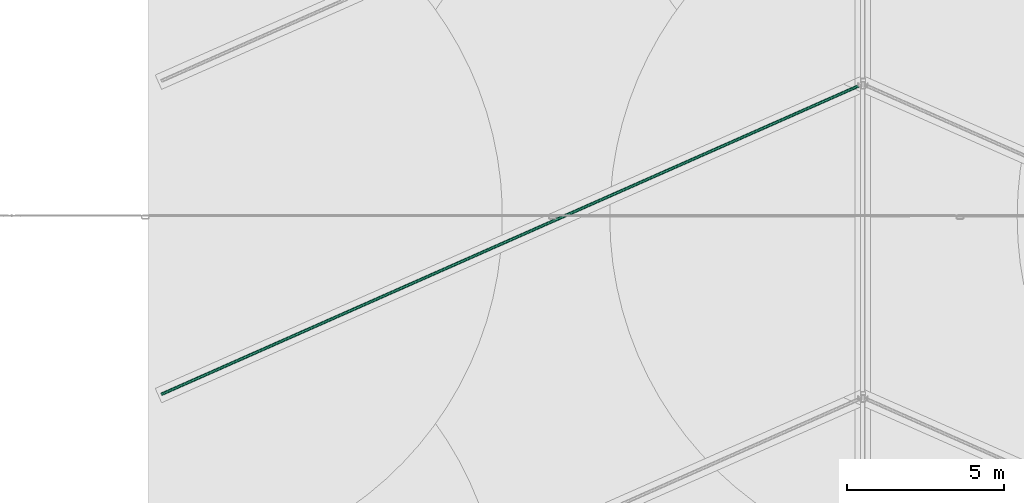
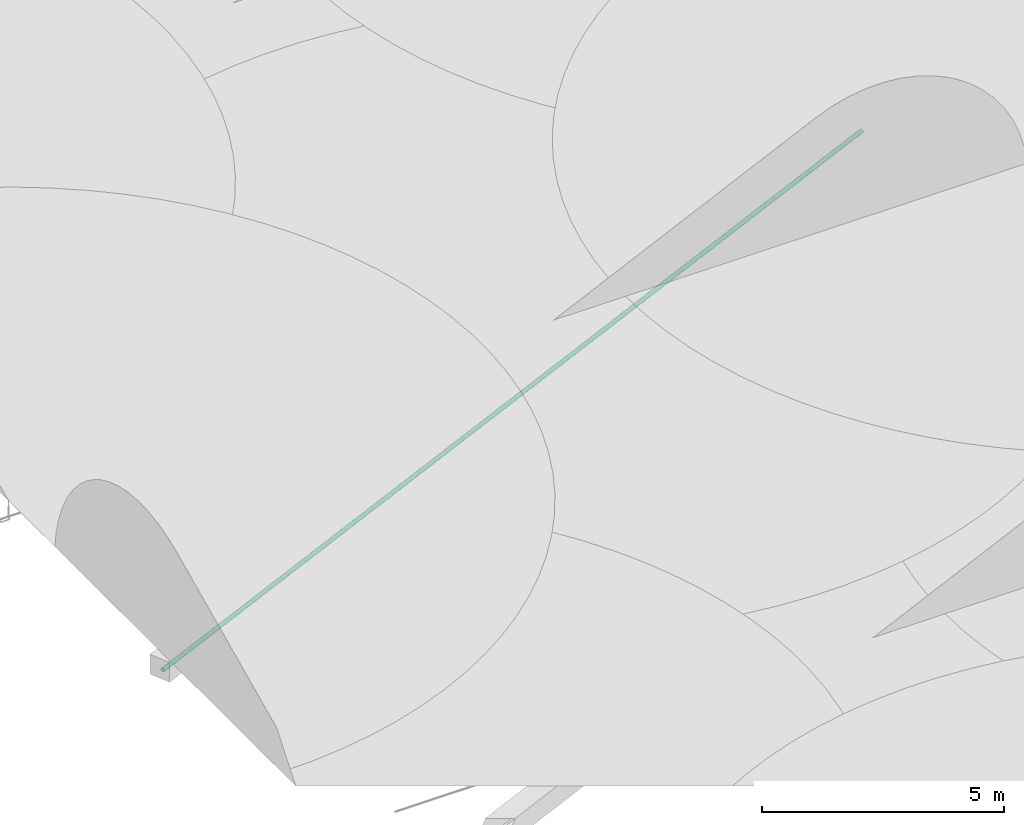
# One storey, part 12 of 166: 1 flow segment.
"""IFC2X3 building model written with IfcOpenShell, lengths in metres."""

from ifc_helpers import new_model, entity, si_unit, converted_unit, direction, frame, origin, origin_2d_with_axis, place, context, subcontext, project, spatial, circle, extrude, type_object, element, save


model = new_model("IFC2X3")

# Units and contexts
model_context = context("Model", 3, precision=1e-05, world=origin(), true_north=direction((6.123233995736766e-17, 1.0)))
body_context = subcontext(model_context, "Body", "Model", "MODEL_VIEW")
ifc_project = project(units=[si_unit("LENGTHUNIT", "METRE"), converted_unit("PLANEANGLEUNIT", "DEGREE", entity("IfcPlaneAngleMeasure", 0.017453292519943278), si_unit("PLANEANGLEUNIT", "RADIAN"), dimensions=[0, 0, 0, 0, 0, 0, 0]), si_unit("AREAUNIT", "SQUARE_METRE")], contexts=[model_context])

# Site, building, storey
site_placement = place(None, origin())
site = spatial("IfcSite", under=ifc_project, at=site_placement, Name="Default", CompositionType="ELEMENT")
building_placement = place(site_placement, origin())
building = spatial("IfcBuilding", under=site, at=building_placement, Name="CASA DE ACOLHIDA PARA IDOSOS", CompositionType="ELEMENT")
storey_placement = place(building_placement, frame((0.0, 0.0, -1.7499999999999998)))
storey = spatial("IfcBuildingStorey", under=building, at=storey_placement, Name="IMPLANTAÇÃO DRENAGEM", CompositionType="ELEMENT", Elevation=-1.7499999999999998)

# Flow segment
pipe_segment_type = type_object("IfcPipeSegmentType", Name="Tipos de tubos:PLUV_Tubo PEAD Corrugado", PredefinedType="NOTDEFINED")
flow_segment_placement = place(storey_placement, origin())
element("IfcFlowSegment", 1, at=flow_segment_placement, inside=storey, type_object=pipe_segment_type, Name="Tipos de tubos:PLUV_Tubo PEAD Corrugado", ObjectType="Tipos de tubos:PLUV_Tubo PEAD Corrugado", context=body_context, shape_type="SweptSolid", body=[
    extrude(circle(Radius=0.05, at=origin_2d_with_axis()), frame((-21.981366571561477, 13.854942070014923, -0.9947999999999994), z_axis=(-0.9144899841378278, -0.40448495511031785, 0.009999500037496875), x_axis=(0.40450517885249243, -0.9145357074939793, 0.0)), (0.0, 0.0, 1.0), 24.480228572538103),
])

save(model, "model.ifc")
